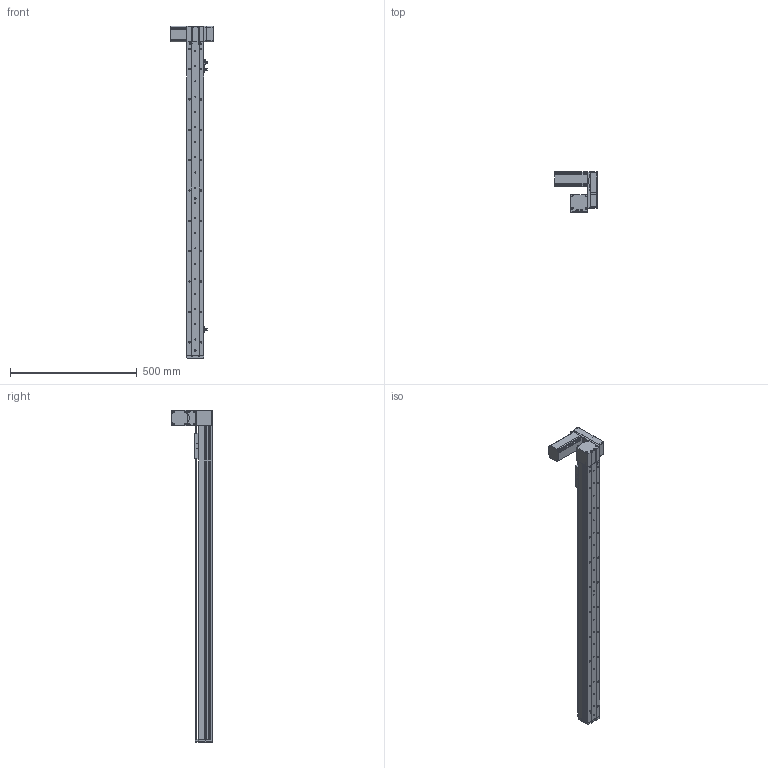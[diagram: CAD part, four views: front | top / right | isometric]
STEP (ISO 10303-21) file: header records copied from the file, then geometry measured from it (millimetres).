
FILE_DESCRIPTION (( 'STEP AP214' ), '1' );
FILE_NAME ('KSD68BS-S1050-MLU-CM.STEP', '2019-11-06T06:53:22', ( '微软用户' ), ( '微软中国' ), 'SwSTEP 2.0', 'SolidWorks 2014', '' );
FILE_SCHEMA (( 'AUTOMOTIVE_DESIGN' ));
Length unit declared in the file: millimetre
Products named in the file (11): 悵誘欶奻狟殏; 68宽马达安装板连板上折同步带; 68宽单导轨半封闭同步带主动轮座左; 68单导轨同步带半封闭端板; KSD68BS 1050俴最裔啣圉猾敕; 覜茼え68遵圉猾敕; KSD68BS半封闭同步带传动导轨座; U倰嫖萇EEㄜSX672; 台达ECMA－C20604AS伺服电机（400W); KSD68BS 1050俴最菁啣圉猾敕; KSD68BS-S1050-MLU-CM
Assembly tree (12 placements, depth 2):
  KSD68BS-S1050-MLU-CM
    KSD68BS 1050俴最菁啣圉猾敕
    台达ECMA－C20604AS伺服电机（400W)
    U倰嫖萇EEㄜSX672  x3
    KSD68BS半封闭同步带传动导轨座
    覜茼え68遵圉猾敕
    KSD68BS 1050俴最裔啣圉猾敕
    68单导轨同步带半封闭端板
    68宽单导轨半封闭同步带主动轮座左
    68宽马达安装板连板上折同步带
    悵誘欶奻狟殏
Bounding box: 167.2 x 159.5 x 1312 mm (x, y, z)
Volume: 2433482.9 mm3; surface area: 863857.9 mm2
Topology: 13 solids, 13 shells, 1438 faces, 4156 edges, 2704 vertices
Faces by surface type: cylinder 730, plane 625, cone 83
Entity records: 53886 total; most frequent: CARTESIAN_POINT 10466, ORIENTED_EDGE 7064, DIRECTION 6932, EDGE_CURVE 3532, AXIS2_PLACEMENT_3D 2490, VERTEX_POINT 2328, VECTOR 1952, LINE 1952
